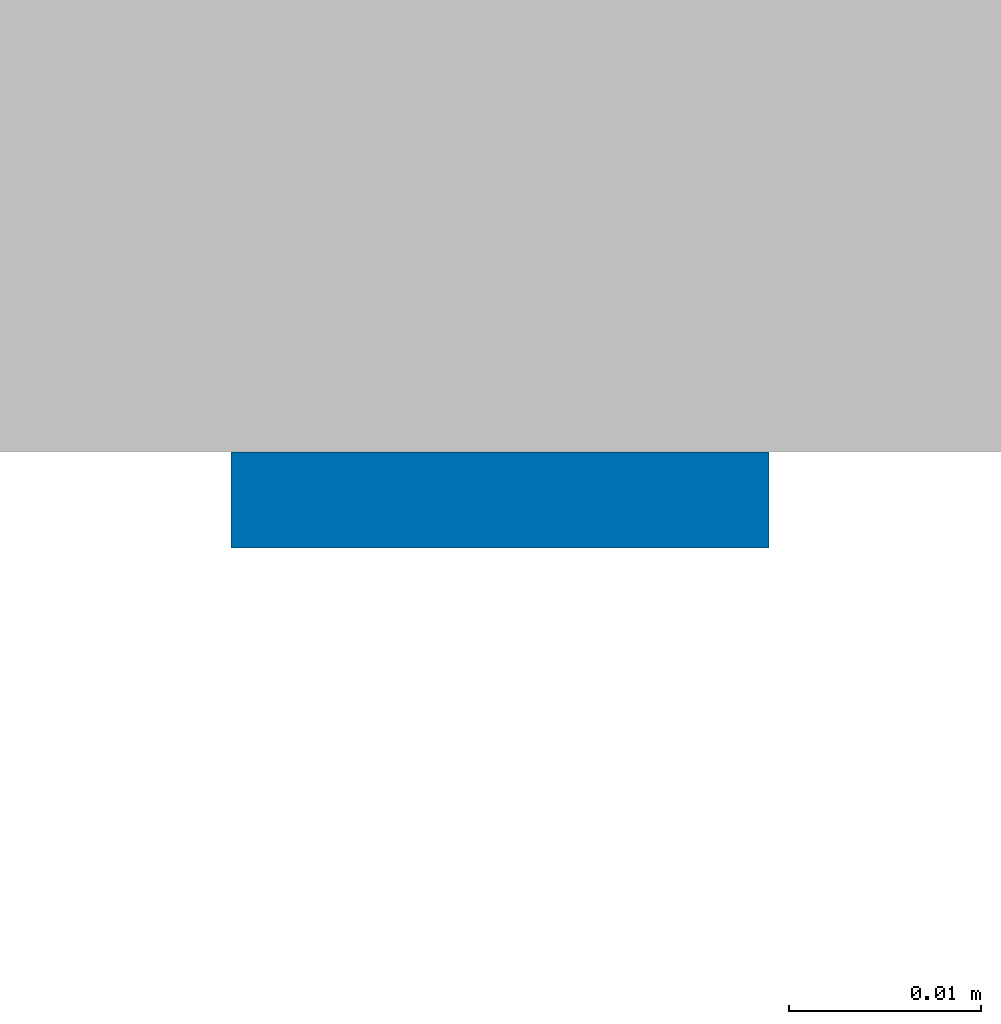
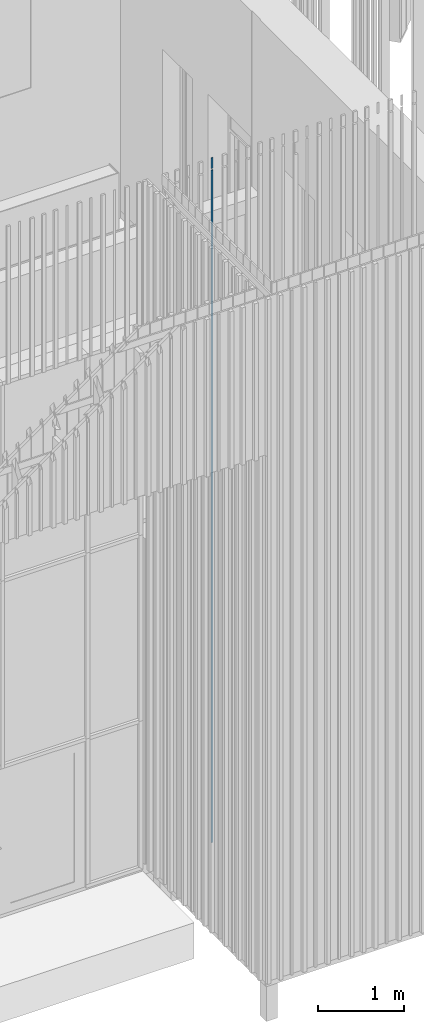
# One storey, part 154 of 390: 1 wall.
"""IFC2X3 building model written with IfcOpenShell, lengths in millimetres."""

from ifc_helpers import new_model, entity, si_unit, converted_unit, derived_unit, money_unit, direction, frame, origin_with_axes, place, context, subcontext, project, spatial, faceted_brep, material, material_list, type_object, element, save


model = new_model("IFC2X3")

# Units and contexts
model_context = context("Model", 3, precision=1e-05, world=origin_with_axes(), true_north=direction((0.0, 1.0)))
body_context = subcontext(model_context, "Body", "Model", "MODEL_VIEW")
ifc_project = project(units=[si_unit("LENGTHUNIT", "METRE", prefix="MILLI"), si_unit("AREAUNIT", "SQUARE_METRE"), si_unit("VOLUMEUNIT", "CUBIC_METRE"), converted_unit("PLANEANGLEUNIT", "DEGREE", entity("IfcPlaneAngleMeasure", 0.0174532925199), si_unit("PLANEANGLEUNIT", "RADIAN"), dimensions=[0, 0, 0, 0, 0, 0, 0]), si_unit("SOLIDANGLEUNIT", "STERADIAN"), money_unit("EUR"), converted_unit("TIMEUNIT", "Year", entity("IfcTimeMeasure", 31556926.0), si_unit("TIMEUNIT", "SECOND"), dimensions=[0, 0, 1, 0, 0, 0, 0]), si_unit("MASSUNIT", "GRAM", prefix="KILO"), si_unit("THERMODYNAMICTEMPERATUREUNIT", "DEGREE_CELSIUS"), si_unit("LUMINOUSINTENSITYUNIT", "LUMEN"), si_unit("ENERGYUNIT", "JOULE", prefix="MEGA"), derived_unit("THERMALCONDUCTANCEUNIT", [(si_unit("POWERUNIT", "WATT"), 1), (si_unit("LENGTHUNIT", "METRE"), -1), (si_unit("THERMODYNAMICTEMPERATUREUNIT", "KELVIN"), -1)]), derived_unit("SPECIFICHEATCAPACITYUNIT", [(si_unit("ENERGYUNIT", "JOULE"), 1), (si_unit("MASSUNIT", "GRAM", prefix="KILO"), -1), (si_unit("THERMODYNAMICTEMPERATUREUNIT", "KELVIN"), -1)]), derived_unit("MASSDENSITYUNIT", [(si_unit("MASSUNIT", "GRAM", prefix="KILO"), 1), (si_unit("VOLUMEUNIT", "CUBIC_METRE"), -1)])], contexts=[model_context])

# Site, building, storey
site_placement = place(None, origin_with_axes())
site = spatial("IfcSite", under=ifc_project, at=site_placement, Name="Site", CompositionType="ELEMENT")
building_placement = place(site_placement, origin_with_axes())
building = spatial("IfcBuilding", under=site, at=building_placement, Name="Building", CompositionType="ELEMENT")
storey_placement = place(building_placement, origin_with_axes())
storey = spatial("IfcBuildingStorey", under=building, at=storey_placement, Name="1 korrus", CompositionType="ELEMENT", Elevation=0.0)

# Wall
ifc_material = material(Name="Site specified")
ifc_material_list = material_list([ifc_material, ifc_material])
wall_type = type_object("IfcWallType", Name="Puitfassaadi ribistik", PredefinedType="NOTDEFINED")
wall_placement = place(storey_placement, frame((133784.000037, 45271.9998692, 100.000000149), z_axis=(0.0, 0.0, 1.0), x_axis=(-1.0, 0.0, 0.0)))
element("IfcWall", 1, at=wall_placement, inside=storey, type_object=wall_type, material=ifc_material_list, Name="Site specified", context=body_context, shape_type="Brep", body=[
    faceted_brep([(14.0, 8.99995710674, -3.12924797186e-06), (14.0, 8.99986079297, 9591.91725957), (-14.0, 8.99986079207, 9591.91725957), (-14.0, 8.99995710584, -3.12924797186e-06), (14.0, 14.0, 0.0), (14.0, 14.0, 9590.85444717), (-14.0, 14.0, 9590.85444717), (-14.0, 14.0, 0.0)], [[[0, 1, 2, 3]], [[4, 5, 1, 0]], [[5, 6, 2, 1]], [[3, 2, 6, 7]], [[0, 3, 7, 4]], [[7, 6, 5, 4]]]),
    faceted_brep([(-14.0, 14.0, 9764.99999985), (-14.0, 14.0, 9612.32359967), (-14.0, 8.9998607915, 9613.38641206), (-14.0, 8.9998607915, 9764.99999985), (14.0, 14.0, 9764.99999985), (14.0, 14.0, 9612.32359967), (14.0, 8.99986079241, 9613.38641206), (14.0, 8.99986079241, 9764.99999985)], [[[0, 1, 2, 3]], [[4, 5, 1, 0]], [[5, 6, 2, 1]], [[3, 2, 6, 7]], [[3, 7, 4, 0]], [[7, 6, 5, 4]]]),
])

save(model, "model.ifc")
